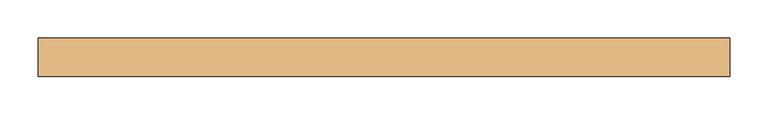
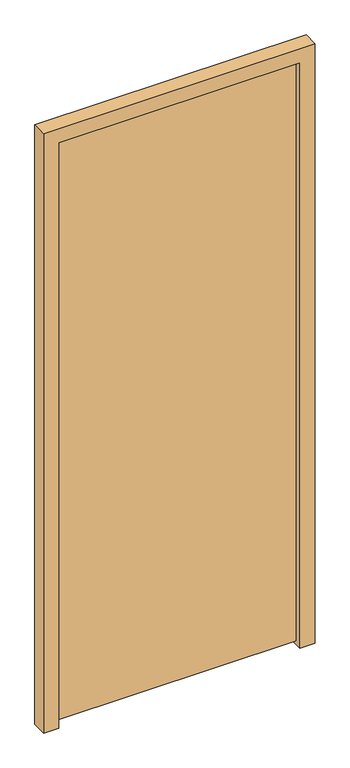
"""IFC4 building model written with IfcOpenShell, lengths in millimetres: door geometry, Dr_Дверь_v2.1 : ДВДГ 21-9_выполняется собственником."""

from ifc_helpers import new_model, si_unit, frame, origin, place, context, project, spatial, polyline, outline, extrude, source, transform, mapped, element, save


def door_050a15a8(model_context):
    return source(origin(), model_context, "Body", "SweptSolid", [
        extrude(outline(polyline([(0.0, -325.0), (0.0, -275.0), (2050.0, -275.0), (2050.0, 525.0), (0.0, 525.0), (0.0, 575.0), (2100.0, 575.0), (2100.0, -325.0), (0.0, -325.0)])), frame((0.0, 55.0, 0.0), z_axis=(0.0, 1.0, 0.0), x_axis=(0.0, 0.0, 1.0)), (0.0, 0.0, 1.0), 50.0),
        extrude(outline(polyline([(525.0, 75.0), (-275.0, 75.0), (-275.0, 105.0), (525.0, 105.0), (525.0, 75.0)])), frame((0.0, 0.0, 14.0), z_axis=(0.0, 0.0, 1.0), x_axis=(1.0, 0.0, 0.0)), (0.0, 0.0, 1.0), 2036.0),
    ])


if __name__ == "__main__":
    model = new_model("IFC4")
    model_context = context("Model", 3, world=origin())
    ifc_project = project(units=[si_unit("LENGTHUNIT", "METRE", prefix="MILLI")], contexts=[model_context])
    site = spatial("IfcSite", under=ifc_project)
    building = spatial("IfcBuilding", under=site)
    placement = place(None, origin())
    door_shape = door_050a15a8(model_context)
    element("IfcDoor", 1, ObjectType="Dr_Дверь_v2.1 : ДВДГ 21-9_выполняется собственником", at=placement, inside=building, context=model_context, shape_type="MappedRepresentation", body=[
        mapped(door_shape, transform((0.0, 0.0, 0.0), x_axis=(1.0, 0.0, 0.0), y_axis=(0.0, 1.0, 0.0), z_axis=(0.0, 0.0, 1.0))),
    ])
    save(model, "model.ifc")
